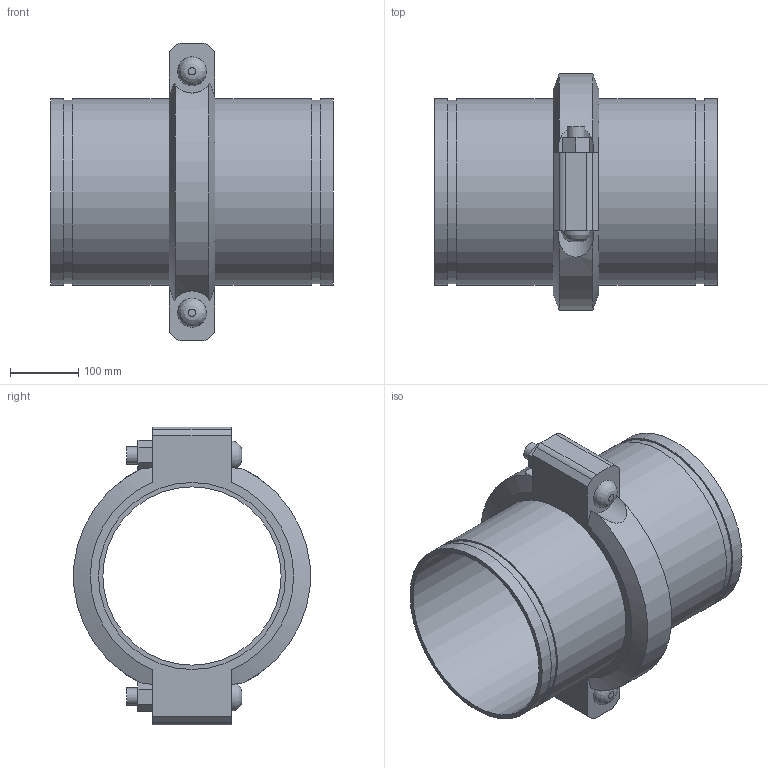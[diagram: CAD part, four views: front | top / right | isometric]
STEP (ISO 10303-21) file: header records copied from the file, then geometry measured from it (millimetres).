
FILE_DESCRIPTION(/* description */ ('VIC EXPANSION JOINT 1 COUPLING EXPANDED STYLE 155 (OGS)','CAx-IF Rec.Pracs.---Representation and Presentation of Product Manufacturing Information (PMI)---4.0---2014-10-13'),/* implementation_level */ '2;1');
FILE_NAME(/* name */ 'C:\Users\kkamble\AppData\Roaming\Autodesk\ApplicationPlugins\Victaulic.Temp\A694\Victaulic_IPS_Expansion Joint_Expanded_1 Coupling_Style 155 (OGS)_10 (250).stp',/* time_stamp */ '2021-06-26T23:48:06+02:00',/* author */ ('kkamble'),/* organization */ ('Victaulic'),/* preprocessor_version */ 'ST-DEVELOPER v17.2',/* originating_system */ 'Autodesk Inventor 2019',/* authorisation */ '');
FILE_SCHEMA (('AP242_MANAGED_MODEL_BASED_3D_ENGINEERING_MIM_LF { 1 0 10303 442 1 1 4 }'));
Length unit declared in the file: inch
Products named in the file (3): 155-10.0; Nipple-10.0; 077-10.0
Assembly tree (3 placements, depth 2):
  155-10.0
    Nipple-10.0  x2
    077-10.0
Bounding box: 412.75 x 344.9 x 435.1 mm (x, y, z)
Volume: 5009524.6 mm3; surface area: 1003088.3 mm2
Topology: 3 solids, 5 shells, 85 faces, 205 edges, 146 vertices
Faces by surface type: plane 48, cylinder 31, cone 4, bspline 2
Full cylindrical faces by diameter (mm): 25.4 x4, 27.432 x2, 260.35 x2, 264.16 x1, 268.275 x4, 273.05 x8
Entity records: 2573 total; most frequent: CARTESIAN_POINT 600, DIRECTION 381, ORIENTED_EDGE 350, EDGE_CURVE 175, AXIS2_PLACEMENT_3D 149, VERTEX_POINT 122, EDGE_LOOP 93, LINE 83
